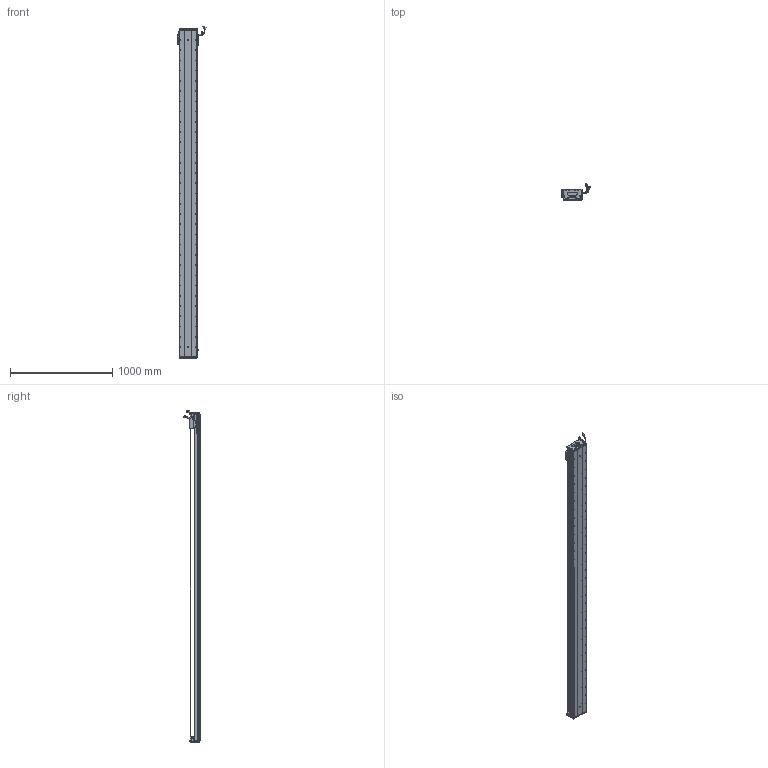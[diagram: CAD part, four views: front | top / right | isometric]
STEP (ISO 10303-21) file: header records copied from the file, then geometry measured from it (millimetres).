
FILE_DESCRIPTION (( 'STEP AP203' ), '1' );
FILE_NAME ('Z1-RY170D-1-L500-B-K.SLDASM_3000.step', '2021-05-17T08:57:38', ( '盈信电脑' ), ( '东莞市道滘镇水果街19号' ), 'SwSTEP 2.0', 'SolidWorks 2016', '' );
FILE_SCHEMA (( 'CONFIG_CONTROL_DESIGN' ));
Length unit declared in the file: millimetre
Products named in the file (36): COVER-Part-1; Z-170詩湍傷裔啣; COVER; SCREW-M1.6; Z1-RY170D-1-L500-B-K.SLDASM_3000; 170-Z-臏賑輸盄裔(21遴); HOLDER0; PSLH080_PSLF2; 140蚥薯蝶輸; Z-RY170詩湍狟揤裔; SCREW-M1.6-2; SCREW-M1.7-1; 榋妏寠巭燃_暯_M2_2; SCALE; HARNESS-Part-1; SCREW-M1.6-3; SHIELDPLATE; LABEL-Part-1; Z1-RY170-L500詩湍145mm遵_3000; RY170直线电机感应器672光电感应片; LABEL; Z1-RY170-L500耀郪菁釱_3000; Z1-RY170臏賑輸(21遴); SEAL; Z-RY170詩湍奻揤裔; 覜茼ん672; SEAL-Part-1; SCALE-Part-2; PBU_SHEET; 140雄赽晤鎢ん堤盄; 080黍杅芛假蚾釱21遴; HARNESS; SCREW-M1.6-1; HARNESS-Part-2; SCREW-M1.7; SCALE-Part-1
Assembly tree (41 placements, depth 4):
  Z1-RY170D-1-L500-B-K.SLDASM_3000
    Z1-RY170-L500耀郪菁釱_3000
    RY170直线电机感应器672光电感应片
    Z1-RY170臏賑輸(21遴)
    覜茼ん672  x3
    PSLH080_PSLF2
      SCALE
        SCALE-Part-1
        SCALE-Part-2
      HARNESS
        HARNESS-Part-1
        HARNESS-Part-2
      LABEL
        LABEL-Part-1
      COVER
        COVER-Part-1
      SEAL
        SEAL-Part-1
      榋妏寠巭燃_暯_M2_2
      SHIELDPLATE
      SCREW-M1.7
      SCREW-M1.7-1
      PBU_SHEET
      SCREW-M1.6
      SCREW-M1.6-1
      SCREW-M1.6-2
      SCREW-M1.6-3
      HOLDER0
    080黍杅芛假蚾釱21遴
    Z1-RY170-L500詩湍145mm遵_3000
    Z-170詩湍傷裔啣  x2
    Z-RY170詩湍奻揤裔  x2
    Z-RY170詩湍狟揤裔  x2
    140蚥薯蝶輸  x2
    170-Z-臏賑輸盄裔(21遴)
    140雄赽晤鎢ん堤盄
Bounding box: 275.29 x 158.11 x 3243.72 mm (x, y, z)
Volume: 15262982.6 mm3; surface area: 3820790.7 mm2
Topology: 36 solids, 36 shells, 4340 faces, 12163 edges, 7585 vertices
Faces by surface type: cylinder 2242, plane 1348, cone 628, torus 69, bspline 53
Entity records: 139231 total; most frequent: CARTESIAN_POINT 40054, ORIENTED_EDGE 20642, DIRECTION 18889, EDGE_CURVE 10321, AXIS2_PLACEMENT_3D 6958, VERTEX_POINT 6703, LINE 4973, VECTOR 4973
